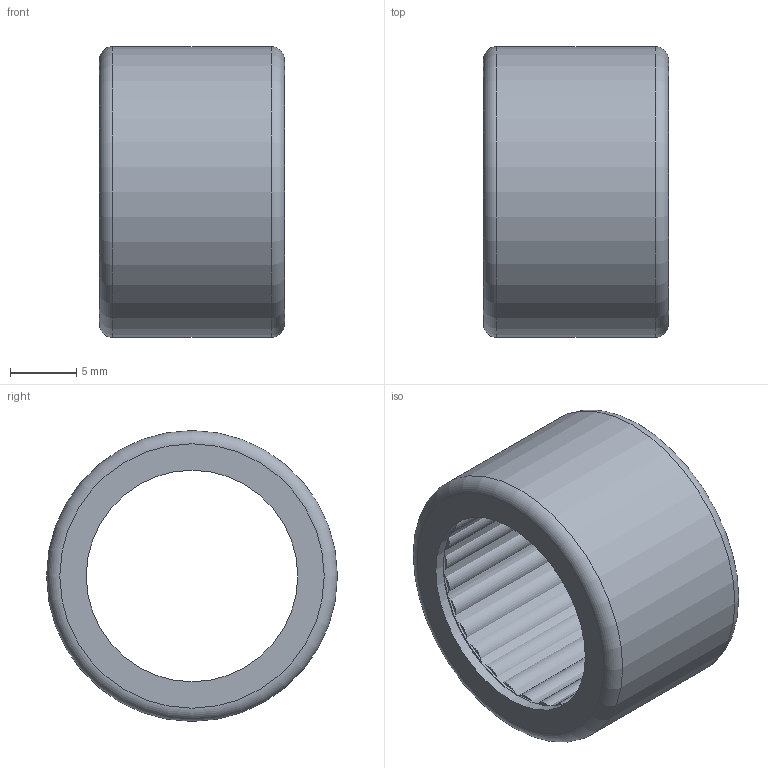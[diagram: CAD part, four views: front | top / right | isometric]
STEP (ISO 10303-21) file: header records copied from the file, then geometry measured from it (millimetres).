
FILE_DESCRIPTION(/* description */ (''),/* implementation_level */ '2;1');
FILE_NAME(/* name */ 'C:\Users\OUREHANEKD\Desktop\Ihlove loziska\HK-RS\HK-RS--\HK1614-RS.stp',/* time_stamp */ '2016-10-07T10:37:14+02:00',/* author */ ('OUREHANEKD'),/* organization */ (''),/* preprocessor_version */ 'ST-DEVELOPER v15.6',/* originating_system */ 'Autodesk Inventor 2015',/* authorisation */ '');
FILE_SCHEMA (('AUTOMOTIVE_DESIGN { 1 0 10303 214 3 1 1 }'));
Length unit declared in the file: millimetre
Products named in the file (4): HK1614-RS-01; HK1614-RS-kl; HK1614-RS-ihla; HK1614-RS
Assembly tree (29 placements, depth 2):
  HK1614-RS
    HK1614-RS-01
    HK1614-RS-kl
    HK1614-RS-ihla  x27
Bounding box: 14 x 22 x 22 mm (x, y, z)
Volume: 3199.8 mm3; surface area: 6079.1 mm2
Topology: 29 solids, 29 shells, 96 faces, 105 edges, 69 vertices
Faces by surface type: plane 60, cylinder 33, torus 2, cone 1
Full cylindrical faces by diameter (mm): 2.208 x27, 16 x2, 16.5 x1, 19.916 x1, 20.416 x1, 22 x1
Entity records: 656 total; most frequent: DIRECTION 136, CARTESIAN_POINT 85, AXIS2_PLACEMENT_3D 68, EDGE_LOOP 34, ORIENTED_EDGE 34, PRODUCT_DEFINITION_SHAPE 33, ITEM_DEFINED_TRANSFORMATION 29, CONTEXT_DEPENDENT_SHAPE_REPRESENTATION 29
